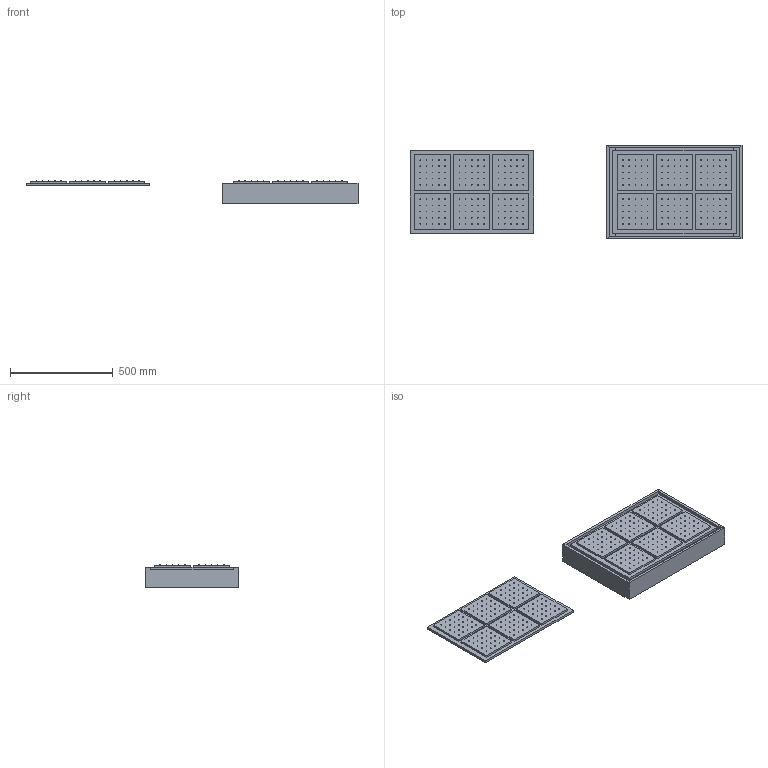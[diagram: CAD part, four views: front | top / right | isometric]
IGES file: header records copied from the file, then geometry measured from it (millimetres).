
Global section: file name: D:\Desktop\GIOVANNI\SCHEDE PRODOTTO\SOFFIONI\MULTISHOWER\3D\MOMA DESIGN_SOFFIONI_MULTI SHOWER.igs; native system: Rhinoceros ( Jan 17 2018 ); preprocessor: Trout Lake IGES 012 Jan 17 2018; date: 230523.153347; units: millimetre
Bounding box: 1612.27 x 456 x 114.34 mm (x, y, z)
Surface area: 2790565.3 mm2 (no closed solid volume)
Topology: 0 solids, 0 shells, 2220 faces, 13056 edges, 12144 vertices
Faces by surface type: bspline 2220
